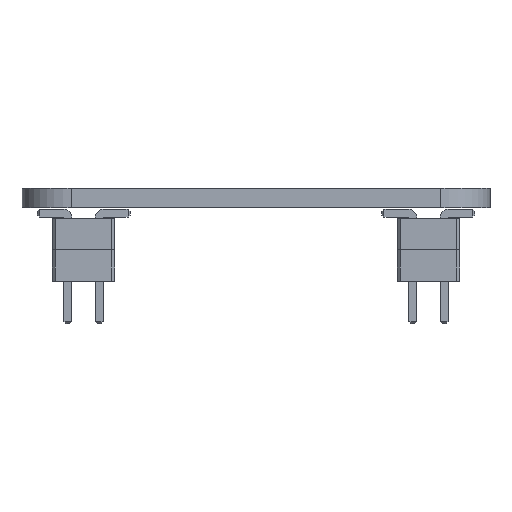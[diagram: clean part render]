
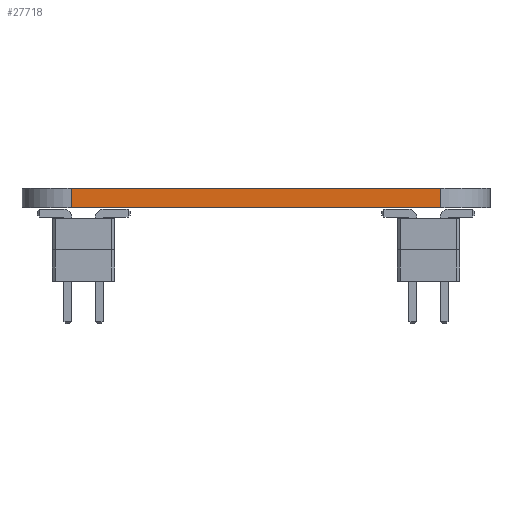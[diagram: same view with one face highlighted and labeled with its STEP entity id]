
A CAD part, front view. The second image highlights one B-rep face of the part: STEP entity #27718.
In plain terms, the highlighted planar face has unit normal (0, -1, 0).
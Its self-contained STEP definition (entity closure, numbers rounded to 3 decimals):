
#1973=FACE_OUTER_BOUND('',#3675,.T.);
#3675=EDGE_LOOP('',(#23738,#23739,#23740,#23741));
#7134=LINE('',#43247,#10598);
#7137=LINE('',#43357,#10601);
#7138=LINE('',#43456,#10602);
#7140=LINE('',#43460,#10604);
#10598=VECTOR('',#35777,1.);
#10601=VECTOR('',#35886,1.);
#10602=VECTOR('',#35987,1.);
#10604=VECTOR('',#35993,1.);
#12870=VERTEX_POINT('',#43244);
#12871=VERTEX_POINT('',#43246);
#12924=VERTEX_POINT('',#43354);
#12925=VERTEX_POINT('',#43356);
#16473=EDGE_CURVE('',#12870,#12871,#7134,.T.);
#16528=EDGE_CURVE('',#12925,#12924,#7137,.T.);
#16578=EDGE_CURVE('',#12870,#12925,#7138,.T.);
#16580=EDGE_CURVE('',#12871,#12924,#7140,.T.);
#23738=ORIENTED_EDGE('',*,*,#16578,.T.);
#23739=ORIENTED_EDGE('',*,*,#16528,.T.);
#23740=ORIENTED_EDGE('',*,*,#16580,.F.);
#23741=ORIENTED_EDGE('',*,*,#16473,.F.);
#25274=PLANE('',#29371);
#27718=ADVANCED_FACE('',(#1973),#25274,.T.);
#29371=AXIS2_PLACEMENT_3D('',#43459,#35991,#35992);
#35777=DIRECTION('',(-1.,0.,0.));
#35886=DIRECTION('',(-1.,0.,0.));
#35987=DIRECTION('',(0.,0.,1.));
#35991=DIRECTION('center_axis',(0.,-1.,0.));
#35992=DIRECTION('ref_axis',(-1.,0.,0.));
#35993=DIRECTION('',(0.,0.,1.));
#43244=CARTESIAN_POINT('',(15.,-30.5,0.));
#43246=CARTESIAN_POINT('',(-15.,-30.5,0.));
#43247=CARTESIAN_POINT('',(15.,-30.5,0.));
#43354=CARTESIAN_POINT('',(-15.,-30.5,1.6));
#43356=CARTESIAN_POINT('',(15.,-30.5,1.6));
#43357=CARTESIAN_POINT('',(15.,-30.5,1.6));
#43456=CARTESIAN_POINT('',(15.,-30.5,0.));
#43459=CARTESIAN_POINT('Origin',(15.,-30.5,0.));
#43460=CARTESIAN_POINT('',(-15.,-30.5,0.));
